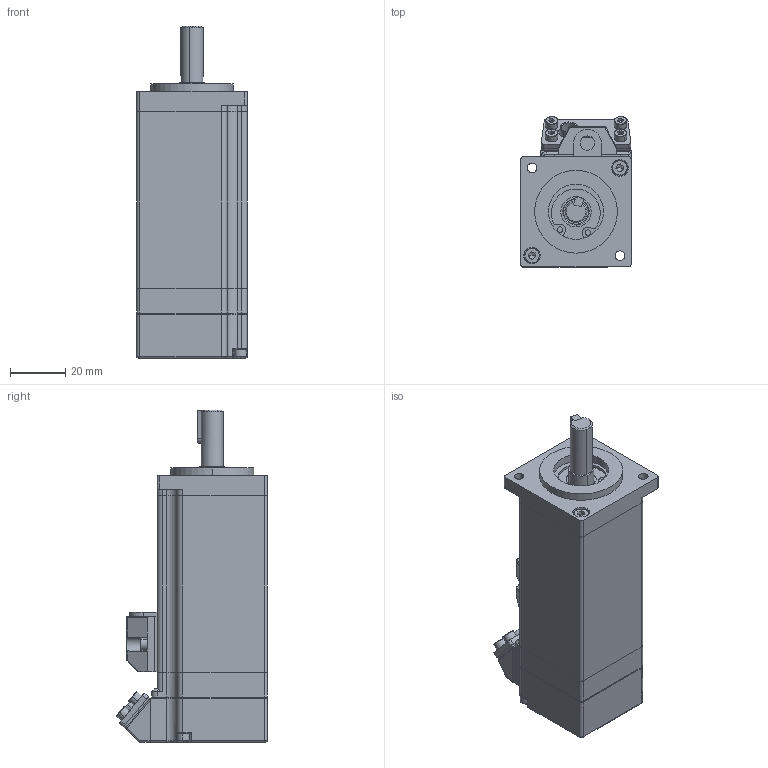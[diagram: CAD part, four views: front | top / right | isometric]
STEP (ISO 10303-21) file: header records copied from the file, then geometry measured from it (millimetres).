
FILE_DESCRIPTION (( 'STEP AP203' ), '1' );
FILE_NAME ('9.6961 SMC40S-0010-30MAK-5DSU.STEP', '2018-11-13T05:21:37', ( '' ), ( '' ), 'SwSTEP 2.0', 'SolidWorks 2008', '' );
FILE_SCHEMA (( 'CONFIG_CONTROL_DESIGN' ));
Length unit declared in the file: millimetre
Products named in the file (1): 9.6961 SMC40S-0010-30MAK-5DSU
Bounding box: 40 x 54.65 x 120.4 mm (x, y, z)
Surface area: 25938.5 mm2 (no closed solid volume)
Topology: 0 solids, 26 shells, 415 faces, 1297 edges, 856 vertices
Faces by surface type: plane 197, cylinder 153, bspline 42, cone 23
Entity records: 15133 total; most frequent: CARTESIAN_POINT 3866, DIRECTION 2391, ORIENTED_EDGE 2099, EDGE_CURVE 1272, VERTEX_POINT 856, AXIS2_PLACEMENT_3D 847, VECTOR 697, LINE 697
